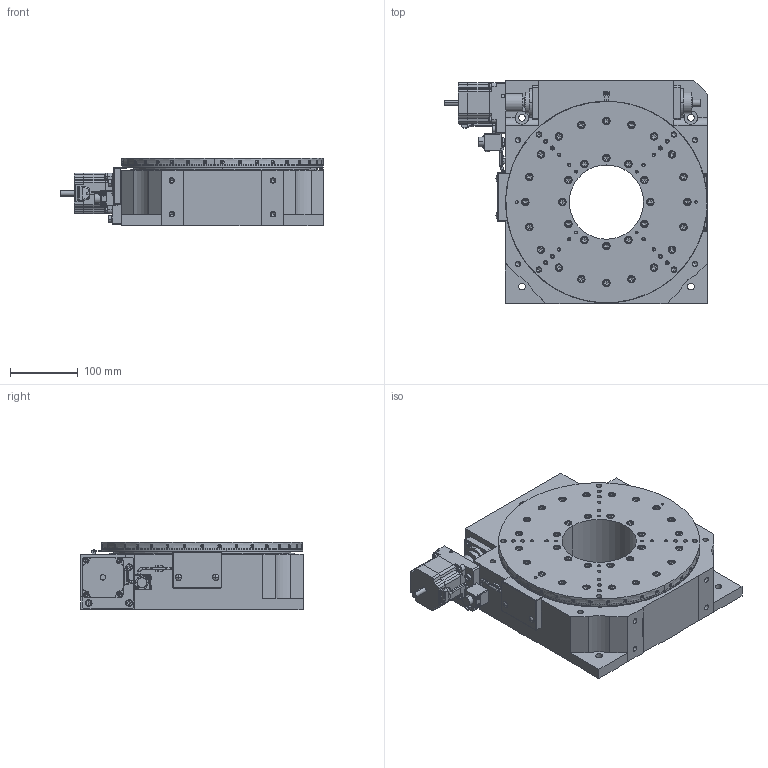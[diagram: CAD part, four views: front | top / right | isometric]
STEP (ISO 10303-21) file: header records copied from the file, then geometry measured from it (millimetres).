
FILE_DESCRIPTION( (''), '2;1');
FILE_NAME ('RA30A-WH01.stp','2022-03-28T17:26:14',(''),(''),'spGate 17.5.5','','');
FILE_SCHEMA (('AUTOMOTIVE_DESIGN'));
Length unit declared in the file: millimetre
Products named in the file (3): Assembly; RA30A-WH01-prt0; RA30A-WH01-prt1
Assembly tree (2 placements, depth 2):
  Assembly
    RA30A-WH01-prt0
    RA30A-WH01-prt1
Bounding box: 390 x 330 x 100 mm (x, y, z)
Volume: 7617136.7 mm3; surface area: 764147.1 mm2
Topology: 2 solids, 5 shells, 5657 faces, 14568 edges, 9184 vertices
Faces by surface type: plane 3831, cylinder 1243, bspline 551, sphere 32
Entity records: 287071 total; most frequent: CARTESIAN_POINT 38450, ORIENTED_EDGE 28724, DIRECTION 26944, COLOUR_RGB 20021, PRESENTATION_STYLE_ASSIGNMENT 20021, STYLED_ITEM 20021, EDGE_CURVE 14362, DRAUGHTING_PRE_DEFINED_CURVE_FONT 14362
